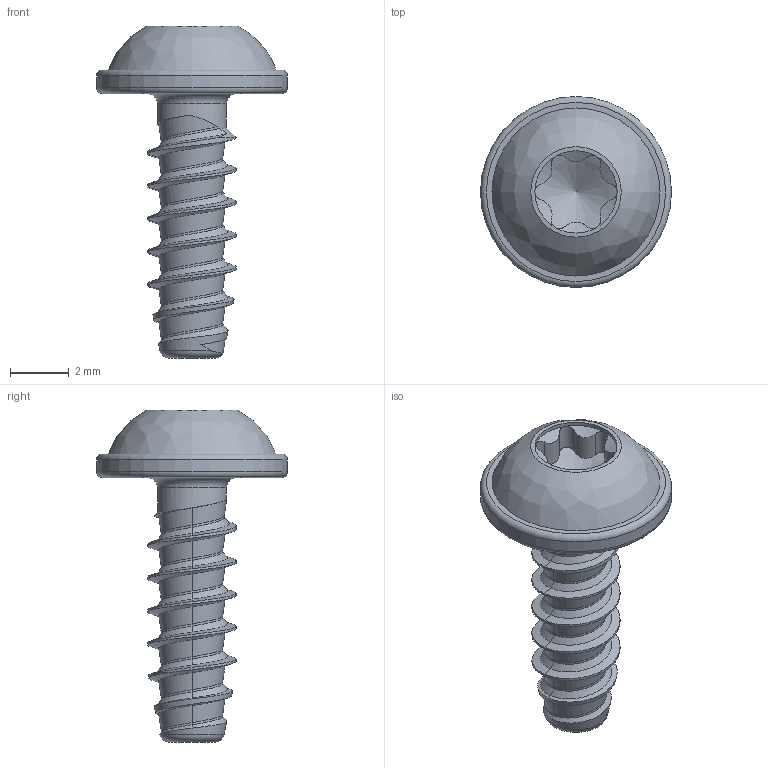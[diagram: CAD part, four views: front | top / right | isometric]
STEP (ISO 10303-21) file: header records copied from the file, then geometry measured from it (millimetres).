
FILE_DESCRIPTION(/* description */ (''),/* implementation_level */ '2;1');
FILE_NAME(/* name */ 'KN6038-STSplus-30x9-T10.step',/* time_stamp */ '2017-10-10T16:52:49+02:00',/* author */ (''),/* organization */ (''),/* preprocessor_version */ 'ST-DEVELOPER v16',/* originating_system */ 'SIEMENS PLM Software NX 10.0',/* authorisation */ '');
FILE_SCHEMA (('AUTOMOTIVE_DESIGN { 1 0 10303 214 3 1 1 1 }'));
Length unit declared in the file: millimetre
Products named in the file (1): KN6038STSplus-30x9-T10
Bounding box: 6.5 x 6.5 x 11.3 mm (x, y, z)
Volume: 85.5 mm3; surface area: 189.8 mm2
Topology: 1 solids, 1 shells, 73 faces, 171 edges, 102 vertices
Faces by surface type: bspline 40, cylinder 16, cone 9, torus 4, plane 4
Full cylindrical faces by diameter (mm): 2.35 x1, 2.8 x1, 6.5 x1
Entity records: 4488 total; most frequent: CARTESIAN_POINT 3163, ORIENTED_EDGE 314, EDGE_CURVE 157, DIRECTION 155, VERTEX_POINT 98, B_SPLINE_CURVE_WITH_KNOTS 90, EDGE_LOOP 84, ADVANCED_FACE 73
